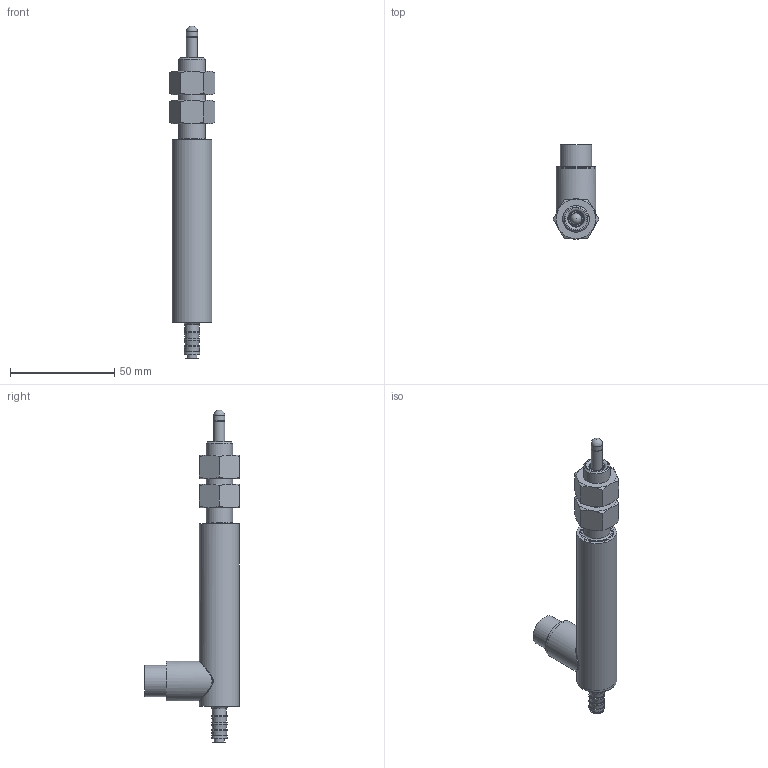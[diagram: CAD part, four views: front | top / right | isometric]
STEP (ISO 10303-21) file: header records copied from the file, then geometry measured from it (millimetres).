
FILE_DESCRIPTION(/* description */ (''),/* implementation_level */ '2;1');
FILE_NAME(/* name */ 'F:\GHRA SERIES\GHRA-750-D-XXXX\GHRA-750-D-125\GHRA-750-D-125 Assembly.iam.stp',/* time_stamp */ '2021-11-17T12:46:31-05:00',/* author */ ('J. Nielson'),/* organization */ (''),/* preprocessor_version */ 'ST-DEVELOPER v18.1',/* originating_system */ 'Autodesk Inventor 2022',/* authorisation */ '');
FILE_SCHEMA (('AUTOMOTIVE_DESIGN { 1 0 10303 214 3 1 1 }'));
Length unit declared in the file: inch
Products named in the file (4): GHRA-750-A-125 Assembly; GHRA-750-A-125 HOUSING_S; GHRA-750-D-125 SHAFT_SW; AS 2465 - 1/2  UNF
Assembly tree (4 placements, depth 2):
  GHRA-750-A-125 Assembly
    GHRA-750-A-125 HOUSING_S
    GHRA-750-D-125 SHAFT_SW
    AS 2465 - 1/2  UNF  x2
Bounding box: 22 x 45.24 x 159.13 mm (x, y, z)
Volume: 20825.6 mm3; surface area: 23905.4 mm2
Topology: 17 solids, 17 shells, 210 faces, 417 edges, 265 vertices
Faces by surface type: plane 82, cylinder 68, cone 47, bspline 7, torus 5, sphere 1
Full cylindrical faces by diameter (mm): 0.762 x12, 2.845 x3, 4.762 x1, 4.826 x2, 5.334 x4, 5.397 x1, 6 x1, 6.731 x1, 7.493 x4, 7.671 x2, 7.874 x1, 11.328 x2, 12.7 x1, 13.208 x1, 14.986 x1, 15.748 x2, 16.51 x1, 17.018 x1, 17.069 x1, 17.78 x1, 18.034 x1, 18.415 x6, 19.05 x2
Entity records: 7365 total; most frequent: CARTESIAN_POINT 3024, DIRECTION 898, ORIENTED_EDGE 730, AXIS2_PLACEMENT_3D 384, EDGE_CURVE 365, EDGE_LOOP 239, VERTEX_POINT 236, CIRCLE 196
